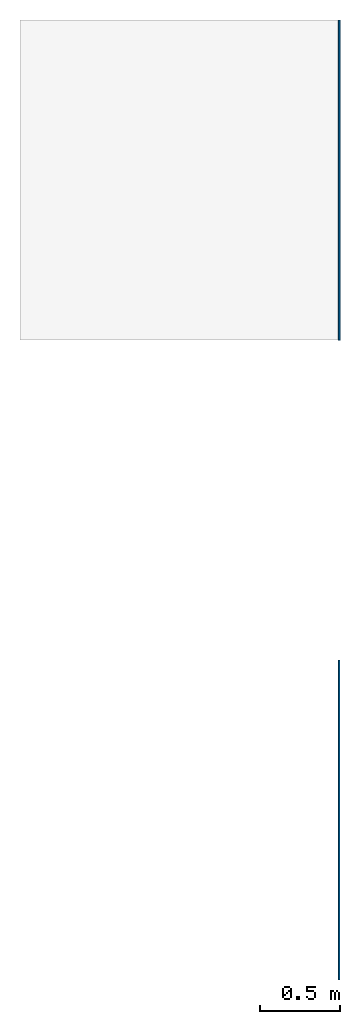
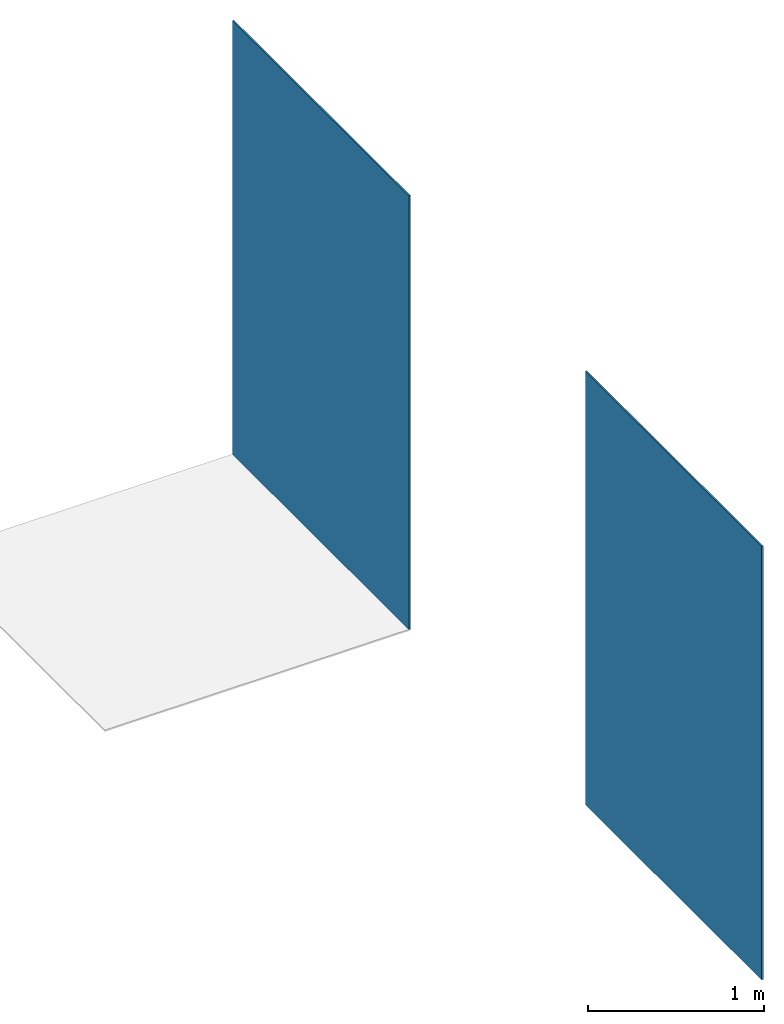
# One storey, part 1 of 2: 2 walls.
"""IFC2X3 building model written with IfcOpenShell, lengths in millimetres."""

from ifc_helpers import new_model, entity, si_unit, converted_unit, derived_unit, direction, frame, frame_2d, origin, place, context, subcontext, project, spatial, rectangle, extrude, material, layer, layer_set, layer_usage, type_object, element, save


model = new_model("IFC2X3")

# Units and contexts
model_context = context("Model", 3, precision=0.01, world=origin(), true_north=direction((6.12303176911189e-17, 1.0)))
body_context = subcontext(model_context, "Body", "Model", "MODEL_VIEW")
ifc_project = project(units=[si_unit("LENGTHUNIT", "METRE", prefix="MILLI"), si_unit("AREAUNIT", "SQUARE_METRE"), si_unit("VOLUMEUNIT", "CUBIC_METRE"), converted_unit("PLANEANGLEUNIT", "DEGREE", entity("IfcRatioMeasure", 0.0174532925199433), si_unit("PLANEANGLEUNIT", "RADIAN"), dimensions=[0, 0, 0, 0, 0, 0, 0]), si_unit("MASSUNIT", "GRAM", prefix="KILO"), derived_unit("MASSDENSITYUNIT", [(si_unit("MASSUNIT", "GRAM", prefix="KILO"), 1), (si_unit("LENGTHUNIT", "METRE"), -3)]), si_unit("TIMEUNIT", "SECOND"), si_unit("FREQUENCYUNIT", "HERTZ"), si_unit("THERMODYNAMICTEMPERATUREUNIT", "DEGREE_CELSIUS"), derived_unit("THERMALTRANSMITTANCEUNIT", [(si_unit("MASSUNIT", "GRAM", prefix="KILO"), 1), (si_unit("THERMODYNAMICTEMPERATUREUNIT", "KELVIN"), -1), (si_unit("TIMEUNIT", "SECOND"), -3)]), derived_unit("VOLUMETRICFLOWRATEUNIT", [(si_unit("LENGTHUNIT", "METRE"), 3), (si_unit("TIMEUNIT", "SECOND"), -1)]), si_unit("ELECTRICCURRENTUNIT", "AMPERE"), si_unit("ELECTRICVOLTAGEUNIT", "VOLT"), si_unit("POWERUNIT", "WATT"), si_unit("FORCEUNIT", "NEWTON", prefix="KILO"), si_unit("ILLUMINANCEUNIT", "LUX"), si_unit("LUMINOUSFLUXUNIT", "LUMEN"), si_unit("LUMINOUSINTENSITYUNIT", "CANDELA"), derived_unit("USERDEFINED", [(si_unit("MASSUNIT", "GRAM", prefix="KILO"), -1), (si_unit("LENGTHUNIT", "METRE"), -2), (si_unit("TIMEUNIT", "SECOND"), 3), (si_unit("LUMINOUSFLUXUNIT", "LUMEN"), 1)]), derived_unit("LINEARVELOCITYUNIT", [(si_unit("LENGTHUNIT", "METRE"), 1), (si_unit("TIMEUNIT", "SECOND"), -1)]), si_unit("PRESSUREUNIT", "PASCAL"), derived_unit("USERDEFINED", [(si_unit("LENGTHUNIT", "METRE"), -2), (si_unit("MASSUNIT", "GRAM", prefix="KILO"), 1), (si_unit("TIMEUNIT", "SECOND"), -2)])], contexts=[model_context])

# Site, building, storey
site_placement = place(None, origin())
site = spatial("IfcSite", under=ifc_project, at=site_placement, Name="Default", CompositionType="ELEMENT")
building_placement = place(site_placement, origin())
building = spatial("IfcBuilding", under=site, at=building_placement, CompositionType="ELEMENT")
storey_placement = place(building_placement, origin())
storey = spatial("IfcBuildingStorey", under=building, at=storey_placement, Name="Level 1", CompositionType="ELEMENT", Elevation=0.0)

# Walls
ifc_material_1 = material(Name="PGR_Porcelanosa_CeramicTiles_Travertino_Medici-450x1200mm-100190496")
ifc_layer_1 = layer(ifc_material_1, 10.3)
ifc_layer_set_1 = layer_set([ifc_layer_1], Name="Basic Wall:PGR_Porcelanosa_CeramicTiles_Travertino_Medici-450x1200mm-100190496")
ifc_layer_usage_1 = layer_usage(ifc_layer_set_1, "AXIS2", "POSITIVE", -5.15)
wall_type_1 = type_object("IfcWallType", Name="Basic Wall:PGR_Porcelanosa_CeramicTiles_Travertino_Medici-450x1200mm-100190496", PredefinedType="STANDARD", material=ifc_layer_set_1)
wall_1_placement = place(storey_placement, frame((3521.92742659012, -6501.98267476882, 0.0), z_axis=(0.0, 0.0, 1.0), x_axis=(0.0, -1.0, 0.0)))
element("IfcWallStandardCase", 1, at=wall_1_placement, inside=storey, type_object=wall_type_1, material=ifc_layer_usage_1, Name="Basic Wall:PGR_Porcelanosa_CeramicTiles_Travertino_Medici-450x1200mm-100190496", ObjectType="Basic Wall:PGR_Porcelanosa_CeramicTiles_Travertino_Medici-450x1200mm-100190496", context=body_context, shape_type="SweptSolid", body=[
    extrude(rectangle(XDim=2000.0, YDim=10.2999999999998, at=frame_2d((1000.0, 7.105427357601e-15), x_axis=(-1.0, 0.0))), origin(), (0.0, 0.0, 1.0), 3000.00000000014),
])
ifc_material_2 = material(Name="PGR_Porcelanosa_CeramicTiles_Travertino_Medici-596x596mm-100191337")
ifc_layer_2 = layer(ifc_material_2, 10.3)
ifc_layer_set_2 = layer_set([ifc_layer_2], Name="Basic Wall:PGR_Porcelanosa_CeramicTiles_Travertino_Medici-596x596mm-100191337")
ifc_layer_usage_2 = layer_usage(ifc_layer_set_2, "AXIS2", "POSITIVE", -5.15)
wall_type_2 = type_object("IfcWallType", Name="Basic Wall:PGR_Porcelanosa_CeramicTiles_Travertino_Medici-596x596mm-100191337", PredefinedType="STANDARD", material=ifc_layer_set_2)
wall_2_placement = place(storey_placement, frame((3521.92742659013, -2501.98267476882, 0.0), z_axis=(0.0, 0.0, 1.0), x_axis=(0.0, -1.0, 0.0)))
element("IfcWallStandardCase", 2, at=wall_2_placement, inside=storey, type_object=wall_type_2, material=ifc_layer_usage_2, Name="Basic Wall:PGR_Porcelanosa_CeramicTiles_Travertino_Medici-596x596mm-100191337", ObjectType="Basic Wall:PGR_Porcelanosa_CeramicTiles_Travertino_Medici-596x596mm-100191337", context=body_context, shape_type="SweptSolid", body=[
    extrude(rectangle(XDim=2000.0, YDim=10.2999999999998, at=frame_2d((1000.0, 7.105427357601e-15), x_axis=(-1.0, 0.0))), origin(), (0.0, 0.0, 1.0), 3000.00000000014),
])

save(model, "model.ifc")
